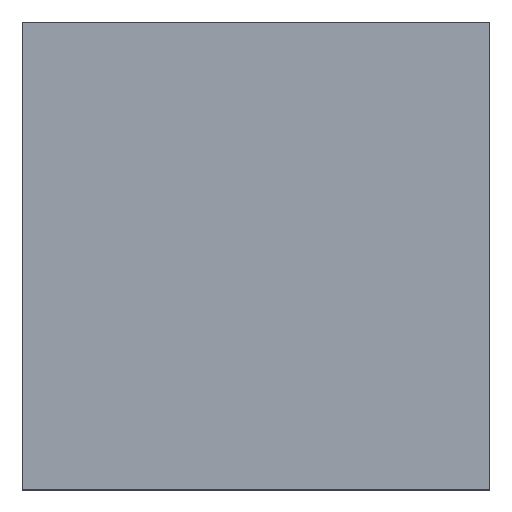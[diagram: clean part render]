
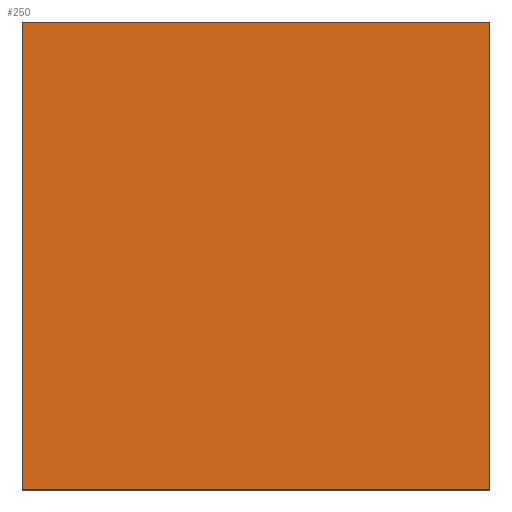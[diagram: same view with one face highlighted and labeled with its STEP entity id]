
A CAD part, top view. The second image highlights one B-rep face of the part: STEP entity #250.
In plain terms, the highlighted planar face has unit normal (0, 0, 1).
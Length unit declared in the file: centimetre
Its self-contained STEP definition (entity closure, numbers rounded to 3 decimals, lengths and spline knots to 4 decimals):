
#3 = ORIENTED_EDGE ( 'NONE', *, *, #508, .T. ) ;
#18 = VECTOR ( 'NONE', #59, 100. ) ;
#36 = EDGE_CURVE ( 'NONE', #50, #500, #57, .T. ) ;
#38 = ORIENTED_EDGE ( 'NONE', *, *, #222, .T. ) ;
#46 = EDGE_CURVE ( 'NONE', #459, #50, #502, .T. ) ;
#50 = VERTEX_POINT ( 'NONE', #468 ) ;
#57 = LINE ( 'NONE', #180, #273 ) ;
#59 = DIRECTION ( 'NONE',  ( 0., -1., 0. ) ) ;
#101 = CARTESIAN_POINT ( 'NONE',  ( 1000., 1000., 1000. ) ) ;
#132 = DIRECTION ( 'NONE',  ( 1., 0., 0. ) ) ;
#145 = CARTESIAN_POINT ( 'NONE',  ( 0., 0., 1000. ) ) ;
#180 = CARTESIAN_POINT ( 'NONE',  ( 1000., 1000., 1000. ) ) ;
#222 = EDGE_CURVE ( 'NONE', #500, #484, #226, .T. ) ;
#223 = DIRECTION ( 'NONE',  ( 1., 0., 0. ) ) ;
#226 = LINE ( 'NONE', #396, #312 ) ;
#228 = DIRECTION ( 'NONE',  ( -1., 0., 0. ) ) ;
#243 = EDGE_LOOP ( 'NONE', ( #3, #417, #281, #38 ) ) ;
#250 = ADVANCED_FACE ( 'NONE', ( #479 ), #264, .T. ) ;
#264 = PLANE ( 'NONE',  #307 ) ;
#273 = VECTOR ( 'NONE', #381, 100. ) ;
#281 = ORIENTED_EDGE ( 'NONE', *, *, #36, .T. ) ;
#307 = AXIS2_PLACEMENT_3D ( 'NONE', #357, #476, #223 ) ;
#312 = VECTOR ( 'NONE', #228, 100. ) ;
#357 = CARTESIAN_POINT ( 'NONE',  ( 0., 0., 1000. ) ) ;
#380 = CARTESIAN_POINT ( 'NONE',  ( 0., 1000., 1000. ) ) ;
#381 = DIRECTION ( 'NONE',  ( 0., 1., 0. ) ) ;
#396 = CARTESIAN_POINT ( 'NONE',  ( 0., 1000., 1000. ) ) ;
#417 = ORIENTED_EDGE ( 'NONE', *, *, #46, .T. ) ;
#426 = LINE ( 'NONE', #380, #18 ) ;
#458 = CARTESIAN_POINT ( 'NONE',  ( 0., 0., 1000. ) ) ;
#459 = VERTEX_POINT ( 'NONE', #145 ) ;
#468 = CARTESIAN_POINT ( 'NONE',  ( 1000., 0., 1000. ) ) ;
#476 = DIRECTION ( 'NONE',  ( 0., 0., 1. ) ) ;
#479 = FACE_OUTER_BOUND ( 'NONE', #243, .T. ) ;
#480 = VECTOR ( 'NONE', #132, 100. ) ;
#484 = VERTEX_POINT ( 'NONE', #506 ) ;
#500 = VERTEX_POINT ( 'NONE', #101 ) ;
#502 = LINE ( 'NONE', #458, #480 ) ;
#506 = CARTESIAN_POINT ( 'NONE',  ( 0., 1000., 1000. ) ) ;
#508 = EDGE_CURVE ( 'NONE', #484, #459, #426, .T. ) ;
